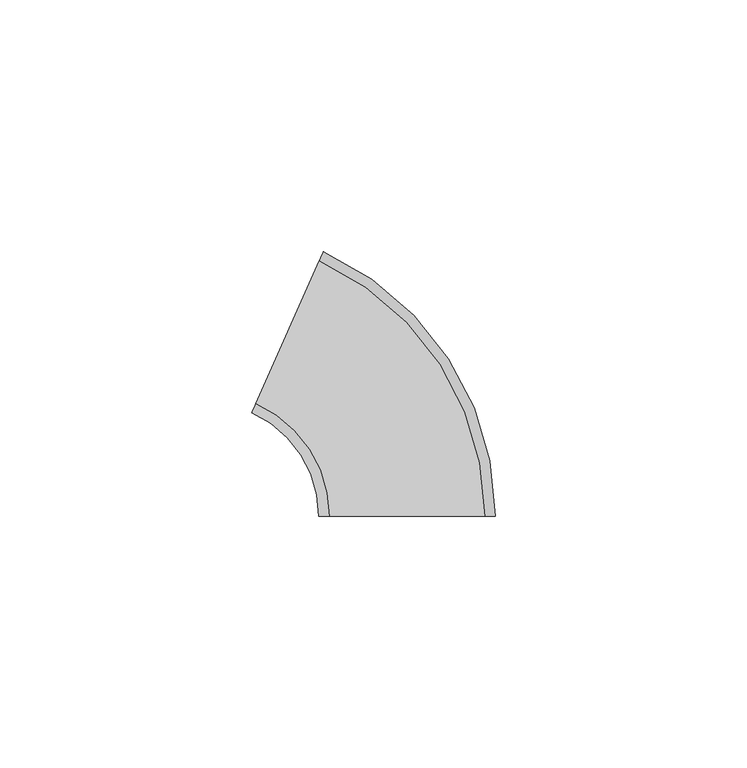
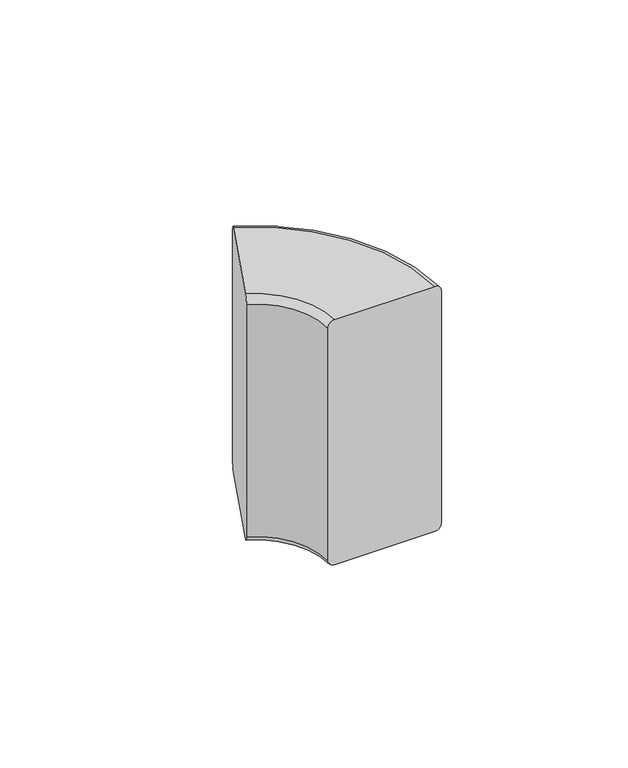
"""IFC4 building model written with IfcOpenShell, lengths in millimetres: duct fitting geometry, Угол внешний переменный от 60° до 120° - для кабель-каналов - белый : Угол внешний переменный от 60° до 120° - для кабель-каналов DLP 35х80/105 - белый."""

from ifc_helpers import new_model, si_unit, point, frame, origin, place, context, project, spatial, polyline, circle_curve, ellipse_curve, trimmed, source, transform, mapped, element, save
from ifc_brep_helpers import plane_surface, cylinder_surface, revolved_surface, advanced_brep


def duct_fitting_d154c733(model_context):
    return source(origin(), model_context, "Body", "AdvancedBrep", [
        advanced_brep(
        [(-15.5, 0.0, 40.0), (-17.5, 0.0, 38.0), (-17.5, 0.0, -38.0), (-15.5, 0.0, -40.0), (15.5, 0.0, -40.0), (17.5, 0.0, -38.0), (17.5, 0.0, 38.0), (15.5, 0.0, 40.0), (-30.0349522, 22.3818637, 40.0), (-17.4261163, 50.7017729, 40.0), (-16.612643, 52.5288638, 38.0), (-16.612643, 52.5288638, -38.0), (-17.4261163, 50.7017729, -40.0), (-30.0349522, 22.3818637, -40.0), (-30.8484255, 20.5547728, -38.0), (-30.8484255, 20.5547728, 38.0)],
        [
            (0, 1, circle_curve(frame((-15.5, 0.0, 38.0), z_axis=(0.0, -1.0, 0.0), x_axis=(-1.0, 0.0, 0.0)), 2.0)),
            (1, 2),
            (2, 3, circle_curve(frame((-15.5, 0.0, -38.0), z_axis=(0.0, -1.0, 0.0), x_axis=(-1.0, 0.0, 0.0)), 2.0)),
            (3, 4),
            (4, 5, circle_curve(frame((15.5, 0.0, -38.0), z_axis=(0.0, -1.0, 0.0), x_axis=(-1.0, 0.0, 0.0)), 2.0)),
            (5, 6),
            (6, 7, circle_curve(frame((15.5, 0.0, 38.0), z_axis=(0.0, -1.0, 0.0), x_axis=(-1.0, 0.0, 0.0)), 2.0)),
            (7, 0),
            (8, 9),
            (9, 10, circle_curve(frame((-17.4261163, 50.7017729, 38.0), z_axis=(-0.913545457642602, 0.4067366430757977, 0.0), x_axis=(-0.4067366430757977, -0.913545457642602, 0.0)), 2.0)),
            (10, 11),
            (11, 12, circle_curve(frame((-17.4261163, 50.7017729, -38.0), z_axis=(-0.913545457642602, 0.4067366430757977, 0.0), x_axis=(-0.4067366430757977, -0.913545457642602, 0.0)), 2.0)),
            (12, 13),
            (13, 14, circle_curve(frame((-30.0349522, 22.3818637, -38.0), z_axis=(-0.913545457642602, 0.4067366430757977, 0.0), x_axis=(-0.4067366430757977, -0.913545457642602, 0.0)), 2.0)),
            (14, 15),
            (15, 8, circle_curve(frame((-30.0349522, 22.3818637, 38.0), z_axis=(-0.913545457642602, 0.4067366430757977, 0.0), x_axis=(-0.4067366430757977, -0.913545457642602, 0.0)), 2.0)),
            (15, 1, circle_curve(frame((-40.0, 0.0, 38.0), z_axis=(0.0, 0.0, -1.0), x_axis=(1.0, 0.0, 0.0)), 22.5)),
            (0, 8, circle_curve(frame((-40.0, 0.0, 40.0), z_axis=(0.0, 0.0, 1.0), x_axis=(1.0, 0.0, 0.0)), 24.5)),
            (14, 2, circle_curve(frame((-40.0, 0.0, -38.0), z_axis=(0.0, 0.0, -1.0), x_axis=(1.0, 0.0, 0.0)), 22.5)),
            (13, 3, circle_curve(frame((-40.0, 0.0, -40.0), z_axis=(0.0, 0.0, -1.0), x_axis=(1.0, 0.0, 0.0)), 24.5)),
            (12, 4, circle_curve(frame((-40.0, 0.0, -40.0), z_axis=(0.0, 0.0, -1.0), x_axis=(1.0, 0.0, 0.0)), 55.5)),
            (11, 5, circle_curve(frame((-40.0, 0.0, -38.0), z_axis=(0.0, 0.0, -1.0), x_axis=(1.0, 0.0, 0.0)), 57.5)),
            (10, 6, circle_curve(frame((-40.0, 0.0, 38.0), z_axis=(0.0, 0.0, -1.0), x_axis=(1.0, 0.0, 0.0)), 57.5)),
            (9, 7, circle_curve(frame((-40.0, 0.0, 40.0), z_axis=(0.0, 0.0, -1.0), x_axis=(1.0, 0.0, 0.0)), 55.5)),
        ],
        [
            plane_surface(frame((0.0, 0.0, 0.0), z_axis=(0.0, -1.0, 0.0), x_axis=(0.0, 0.0, 1.0))),
            plane_surface(frame((-23.7305343, 36.5418183, 0.0), z_axis=(-0.913545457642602, 0.4067366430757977, 0.0), x_axis=(0.0, 0.0, 1.0))),
            revolved_surface(trimmed(ellipse_curve(frame((-15.5, 0.0, 38.0), z_axis=(0.0, -1.0, 0.0), x_axis=(-1.0, 0.0, 0.0)), 2.0, 2.0), [point((-15.5, 0.0, 40.0))], [point((-17.5, 0.0, 38.0))], True, "CARTESIAN"), (-40.0, 0.0, 0.0), (0.0, 0.0, 1.0)),
            revolved_surface(polyline([(-17.5, 0.0, 38.0), (-17.5, 0.0, -38.0)]), (-40.0, 0.0, 0.0), (0.0, 0.0, 1.0)),
            revolved_surface(trimmed(ellipse_curve(frame((-15.5, 0.0, -38.0), z_axis=(0.0, -1.0, 0.0), x_axis=(-1.0, 0.0, 0.0)), 2.0, 2.0), [point((-17.5, 0.0, -38.0))], [point((-15.5, 0.0, -40.0))], True, "CARTESIAN"), (-40.0, 0.0, 0.0), (0.0, 0.0, 1.0)),
            plane_surface(frame((-40.0, 0.0, -40.0), z_axis=(0.0, 0.0, -1.0), x_axis=(1.0, 0.0, 0.0))),
            revolved_surface(trimmed(ellipse_curve(frame((15.5, 0.0, -38.0), z_axis=(0.0, -1.0, 0.0), x_axis=(-1.0, 0.0, 0.0)), 2.0, 2.0), [point((15.5, 0.0, -40.0))], [point((17.5, 0.0, -38.0))], True, "CARTESIAN"), (-40.0, 0.0, 0.0), (0.0, 0.0, 1.0)),
            cylinder_surface(frame((-40.0, 0.0, 0.0), z_axis=(0.0, 0.0, 1.0), x_axis=(1.0, 0.0, 0.0)), 57.5),
            revolved_surface(trimmed(ellipse_curve(frame((15.5, 0.0, 38.0), z_axis=(0.0, -1.0, 0.0), x_axis=(-1.0, 0.0, 0.0)), 2.0, 2.0), [point((17.5, 0.0, 38.0))], [point((15.5, 0.0, 40.0))], True, "CARTESIAN"), (-40.0, 0.0, 0.0), (0.0, 0.0, 1.0)),
            plane_surface(frame((-40.0, 0.0, 40.0), z_axis=(0.0, 0.0, 1.0), x_axis=(1.0, 0.0, 0.0))),
        ],
        [
            (0, [[1, 2, 3, 4, 5, 6, 7, 8]]),
            (1, [[9, 10, 11, 12, 13, 14, 15, 16]]),
            (2, [[17, -1, 18, -16]]),
            (3, [[19, -2, -17, -15]]),
            (4, [[20, -3, -19, -14]]),
            (5, [[21, -4, -20, -13]]),
            (6, [[22, -5, -21, -12]]),
            (7, [[23, -6, -22, -11]]),
            (8, [[24, -7, -23, -10]]),
            (9, [[-18, -8, -24, -9]]),
        ],
    ),
    ])


if __name__ == "__main__":
    model = new_model("IFC4")
    model_context = context("Model", 3, world=origin())
    ifc_project = project(units=[si_unit("LENGTHUNIT", "METRE", prefix="MILLI")], contexts=[model_context])
    site = spatial("IfcSite", under=ifc_project)
    building = spatial("IfcBuilding", under=site)
    placement = place(None, origin())
    duct_fitting_shape = duct_fitting_d154c733(model_context)
    element("IfcDuctFitting", 1, ObjectType="Угол внешний переменный от 60° до 120° - для кабель-каналов - белый : Угол внешний переменный от 60° до 120° - для кабель-каналов DLP 35х80/105 - белый", at=placement, inside=building, context=model_context, shape_type="MappedRepresentation", body=[
        mapped(duct_fitting_shape, transform((0.0, 0.0, 0.0), x_axis=(1.0, 0.0, 0.0), y_axis=(0.0, 1.0, 0.0), z_axis=(0.0, 0.0, 1.0))),
    ])
    save(model, "model.ifc")
